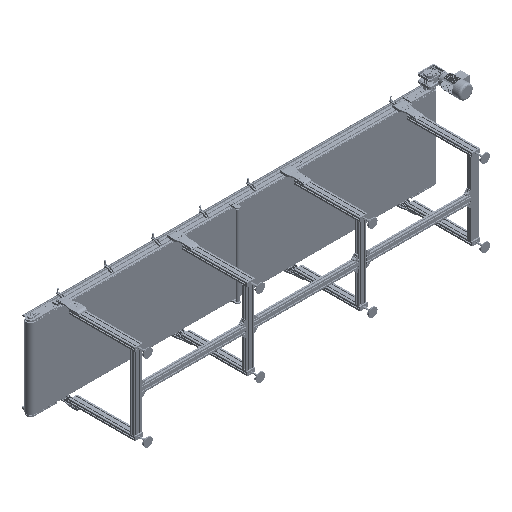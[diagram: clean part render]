
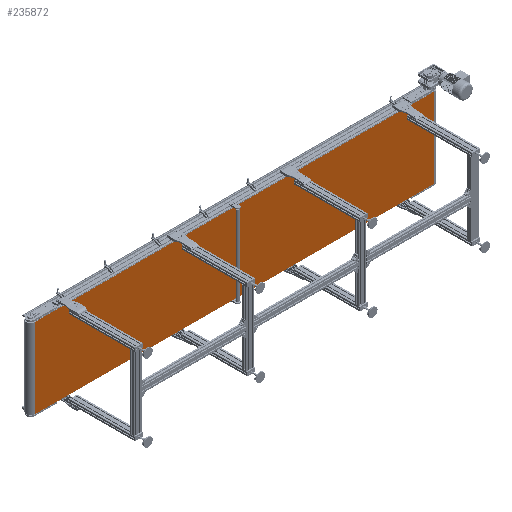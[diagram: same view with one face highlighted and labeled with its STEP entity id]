
A CAD part, isometric view. The second image highlights one B-rep face of the part: STEP entity #235872.
In plain terms, the highlighted planar face has unit normal (0, -1, 0).
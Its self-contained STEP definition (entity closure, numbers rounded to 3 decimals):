
#9816 = DIRECTION ( 'NONE',  ( 0., 0., -1. ) ) ;
#32771 = LINE ( 'NONE', #126075, #283959 ) ;
#44273 = EDGE_CURVE ( 'NONE', #199402, #60970, #32771, .T. ) ;
#47064 = CARTESIAN_POINT ( 'NONE',  ( -2250., -49.5, 450. ) ) ;
#55165 = DIRECTION ( 'NONE',  ( 0., 0., -1. ) ) ;
#60970 = VERTEX_POINT ( 'NONE', #124819 ) ;
#61480 = ORIENTED_EDGE ( 'NONE', *, *, #179698, .T. ) ;
#74530 = EDGE_CURVE ( 'NONE', #228396, #60970, #144486, .T. ) ;
#75688 = EDGE_LOOP ( 'NONE', ( #99621, #106011, #227698, #61480 ) ) ;
#76429 = CARTESIAN_POINT ( 'NONE',  ( -2250., -49.5, 450. ) ) ;
#77931 = DIRECTION ( 'NONE',  ( 0., 0., 1. ) ) ;
#92893 = VERTEX_POINT ( 'NONE', #154047 ) ;
#95998 = DIRECTION ( 'NONE',  ( 1., 0., 0. ) ) ;
#99388 = DIRECTION ( 'NONE',  ( 0., 1., 0. ) ) ;
#99621 = ORIENTED_EDGE ( 'NONE', *, *, #74530, .T. ) ;
#102574 = LINE ( 'NONE', #214327, #122921 ) ;
#106011 = ORIENTED_EDGE ( 'NONE', *, *, #44273, .F. ) ;
#118988 = CARTESIAN_POINT ( 'NONE',  ( -2250., -49.5, -450. ) ) ;
#122286 = FACE_OUTER_BOUND ( 'NONE', #75688, .T. ) ;
#122921 = VECTOR ( 'NONE', #55165, 1000. ) ;
#124819 = CARTESIAN_POINT ( 'NONE',  ( 2250., -49.5, -450. ) ) ;
#126075 = CARTESIAN_POINT ( 'NONE',  ( 2250., -49.5, 450. ) ) ;
#144486 = LINE ( 'NONE', #165943, #245889 ) ;
#154047 = CARTESIAN_POINT ( 'NONE',  ( -2250., -49.5, 450. ) ) ;
#154174 = AXIS2_PLACEMENT_3D ( 'NONE', #76429, #99388, #77931 ) ;
#163286 = LINE ( 'NONE', #47064, #296706 ) ;
#165943 = CARTESIAN_POINT ( 'NONE',  ( -2250., -49.5, -450. ) ) ;
#179698 = EDGE_CURVE ( 'NONE', #92893, #228396, #102574, .T. ) ;
#199402 = VERTEX_POINT ( 'NONE', #223166 ) ;
#214327 = CARTESIAN_POINT ( 'NONE',  ( -2250., -49.5, 450. ) ) ;
#223166 = CARTESIAN_POINT ( 'NONE',  ( 2250., -49.5, 450. ) ) ;
#227698 = ORIENTED_EDGE ( 'NONE', *, *, #241343, .F. ) ;
#228396 = VERTEX_POINT ( 'NONE', #118988 ) ;
#235872 = ADVANCED_FACE ( 'NONE', ( #122286 ), #241604, .F. ) ;
#241343 = EDGE_CURVE ( 'NONE', #92893, #199402, #163286, .T. ) ;
#241604 = PLANE ( 'NONE',  #154174 ) ;
#245889 = VECTOR ( 'NONE', #259275, 1000. ) ;
#259275 = DIRECTION ( 'NONE',  ( 1., 0., 0. ) ) ;
#283959 = VECTOR ( 'NONE', #9816, 1000. ) ;
#296706 = VECTOR ( 'NONE', #95998, 1000. ) ;
